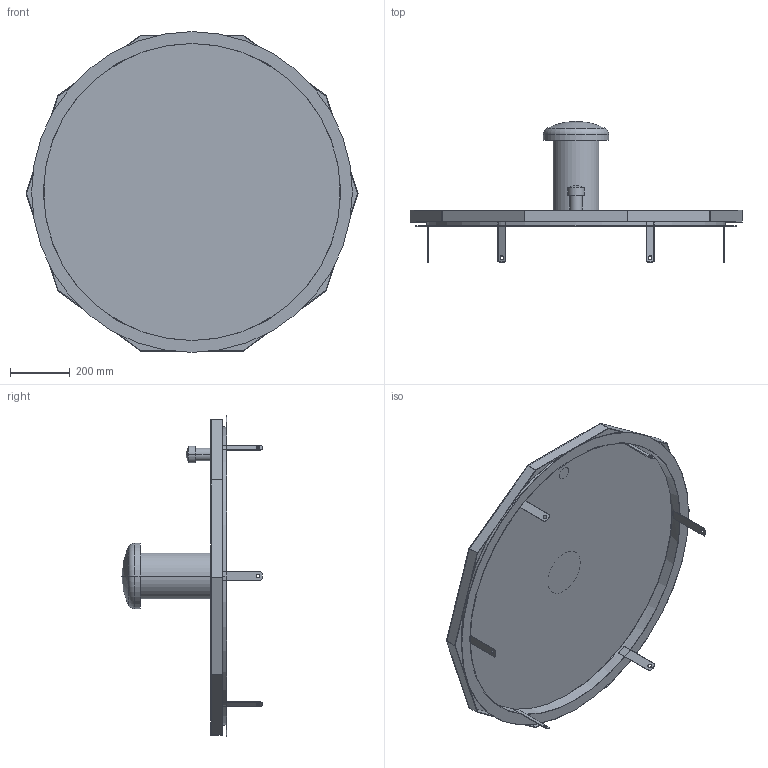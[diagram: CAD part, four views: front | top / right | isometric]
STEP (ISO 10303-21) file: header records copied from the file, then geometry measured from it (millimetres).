
FILE_DESCRIPTION((''),'2;1');
FILE_NAME('017_000107','2018-09-06T',('set'),('HUBER SE'),'PRO/ENGINEER BY PARAMETRIC TECHNOLOGY CORPORATION, 2017170','PRO/ENGINEER BY PARAMETRIC TECHNOLOGY CORPORATION, 2017170','');
FILE_SCHEMA(('AUTOMOTIVE_DESIGN { 1 0 10303 214 1 1 1 1 }'));
Length unit declared in the file: millimetre
Products named in the file (1): 017_000107
Bounding box: 1112.45 x 472 x 1075 mm (x, y, z)
Volume: 8941121.2 mm3; surface area: 2824801.6 mm2
Topology: 2 solids, 2 shells, 96 faces, 258 edges, 168 vertices
Faces by surface type: plane 58, cylinder 32, sphere 4, torus 2
Entity records: 3619 total; most frequent: DIRECTION 543, CARTESIAN_POINT 529, ORIENTED_EDGE 508, EDGE_CURVE 254, AXIS2_PLACEMENT_3D 185, VECTOR 170, LINE 170, VERTEX_POINT 168
